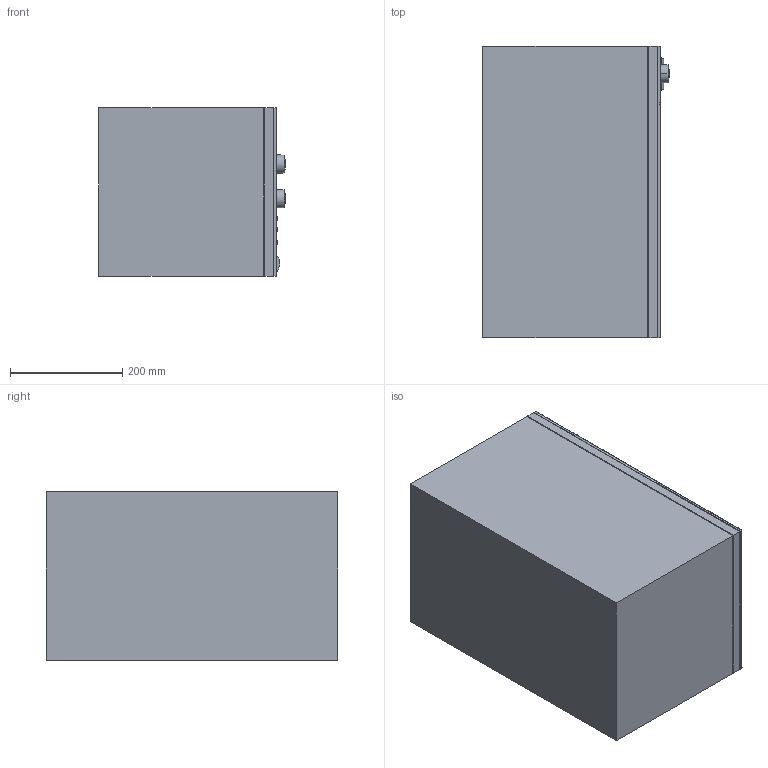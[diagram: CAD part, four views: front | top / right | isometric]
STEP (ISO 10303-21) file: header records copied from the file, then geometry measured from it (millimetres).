
FILE_DESCRIPTION(/* description */ (''),/* implementation_level */ '2;1');
FILE_NAME(/* name */ 'M6012_CLST',/* time_stamp */ '2013-04-22T14:49:59+02:00',/* author */ (''),/* organization */ (''),/* preprocessor_version */ 'ST-DEVELOPER v10',/* originating_system */ '',/* authorisation */ '');
FILE_SCHEMA (('AUTOMOTIVE_DESIGN_CC2'));
Length unit declared in the file: millimetre
Products named in the file (1): 1
Bounding box: 332.46 x 520.06 x 301.07 mm (x, y, z)
Volume: 29691575.5 mm3; surface area: 1887794.3 mm2
Topology: 12 solids, 12 shells, 103 faces, 224 edges, 138 vertices
Faces by surface type: bspline 103
Entity records: 3031 total; most frequent: CARTESIAN_POINT 1543, ORIENTED_EDGE 432, EDGE_CURVE 216, B_SPLINE_CURVE_WITH_KNOTS 164, VERTEX_POINT 138, EDGE_LOOP 108, ADVANCED_FACE 103, FACE_OUTER_BOUND 103
